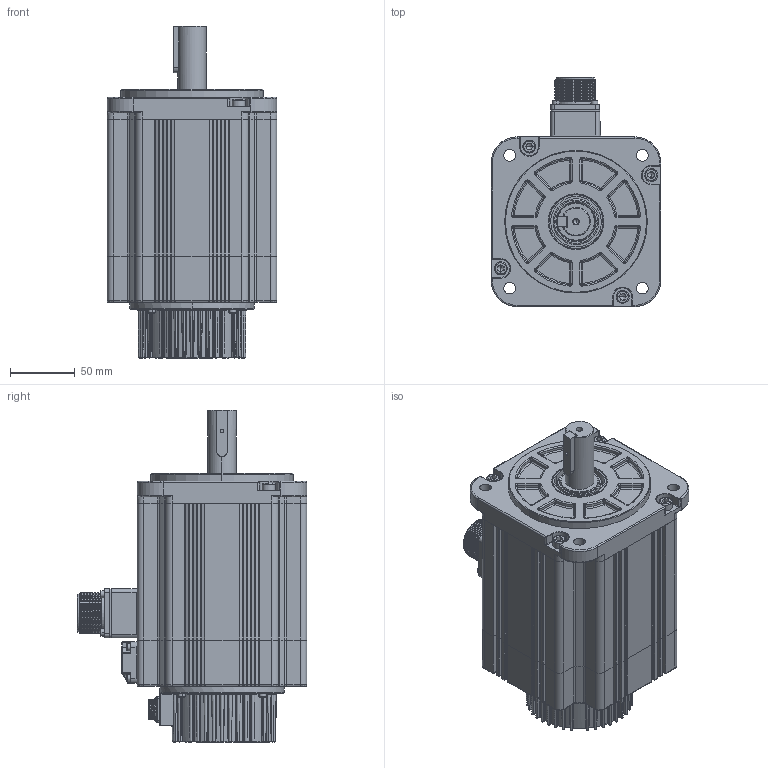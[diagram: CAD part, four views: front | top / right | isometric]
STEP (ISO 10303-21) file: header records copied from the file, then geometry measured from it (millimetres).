
FILE_DESCRIPTION (( 'STEP AP214' ), '1' );
FILE_NAME ('V7E-M18A-1R815-D2.STEP', '2021-08-09T07:24:19', ( '' ), ( '' ), 'SwSTEP 2.0', 'SolidWorks 2014', '' );
FILE_SCHEMA (( 'AUTOMOTIVE_DESIGN' ));
Length unit declared in the file: millimetre
Products named in the file (20): SC瑤諾脣芛 16M-9H; 儂褲200901; V7E-M18A-1R815-D2; SC晤鎢ん欶200908_9郋; 粣200907; 蚐猾 D00B999YF7-TC 30-42-7; SC瑤諾脣芛 MS3102A20-18P; 130陔ヶ傷裔200917; V7-130#定子组件（不带刹车）; 雄薯瑤脣釱200909; 囀鞠褒 M3X30; 130陔ヶ傷裔200902; 零件1^V7-130#电机组件（不带刹车）200927; 价陬揤盄裔200912; V7-130#转子组件（不带刹车）; SC綴傷裔200903-4晚源倛; 囀鞠褒 M6X20; 囀鞠褒 M3X8; 坋趼攫芛 M2X8; 囀鞠褒 M3X10
Assembly tree (34 placements, depth 4):
  V7E-M18A-1R815-D2
    V7-130#定子组件（不带刹车）
      囀鞠褒 M6X20  x4
      130陔ヶ傷裔200917
        130陔ヶ傷裔200902
    V7-130#转子组件（不带刹车）
      粣200907
    SC瑤諾脣芛 16M-9H
    SC晤鎢ん欶200908_9郋
    囀鞠褒 M3X10  x4
    坋趼攫芛 M2X8  x4
    蚐猾 D00B999YF7-TC 30-42-7
    零件1^V7-130#电机组件（不带刹车）200927
    儂褲200901
    雄薯瑤脣釱200909
    SC綴傷裔200903-4晚源倛
    SC瑤諾脣芛 MS3102A20-18P
    价陬揤盄裔200912
    囀鞠褒 M3X8  x4
    囀鞠褒 M3X30  x4
Bounding box: 131 x 177.3 x 256.2 mm (x, y, z)
Volume: 930013.1 mm3; surface area: 344615.2 mm2
Topology: 32 solids, 32 shells, 3266 faces, 7874 edges, 4542 vertices
Faces by surface type: cylinder 1247, bspline 877, plane 797, cone 309, torus 32, sphere 4
Entity records: 142586 total; most frequent: CARTESIAN_POINT 50646, ORIENTED_EDGE 13554, DIRECTION 12244, EDGE_CURVE 6777, AXIS2_PLACEMENT_3D 4841, VERTEX_POINT 4014, EDGE_LOOP 3121, ADVANCED_FACE 2894
